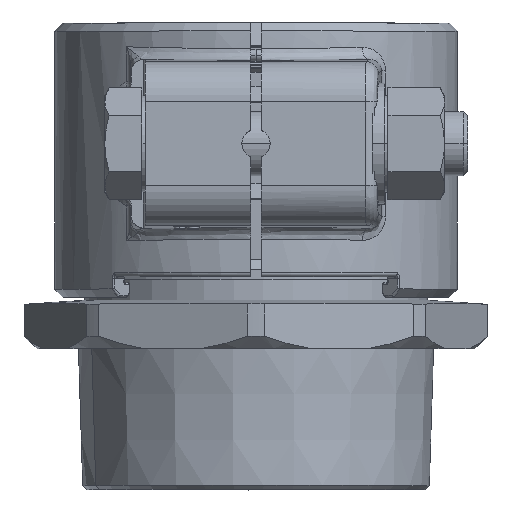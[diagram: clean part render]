
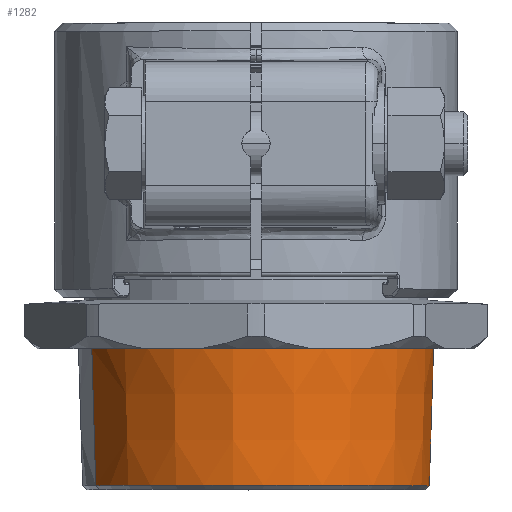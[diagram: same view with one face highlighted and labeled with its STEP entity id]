
A CAD part, top view. The second image highlights one B-rep face of the part: STEP entity #1282.
In plain terms, the highlighted conical face has half-angle 1.783 degrees and reference radius 43.012 mm.
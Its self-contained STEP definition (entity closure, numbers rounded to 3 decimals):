
#191 = VERTEX_POINT ( 'NONE', #14124 ) ;
#221 = VERTEX_POINT ( 'NONE', #14154 ) ;
#236 = VERTEX_POINT ( 'NONE', #14169 ) ;
#300 = VERTEX_POINT ( 'NONE', #14233 ) ;
#1145 = EDGE_CURVE ( 'NONE', #236, #191, #5489, .T. ) ;
#1282 = ADVANCED_FACE ( 'NONE', ( #14618 ), #5013, .T. ) ;
#4951 = AXIS2_PLACEMENT_3D ( 'NONE', #14809, #14810, #14811 ) ;
#4958 = CIRCLE ( 'NONE', #4951, 43.043 ) ;
#5012 = AXIS2_PLACEMENT_3D ( 'NONE', #14620, #14619, #14610 ) ;
#5013 = CONICAL_SURFACE ( 'NONE', #5012, 43.012, 0.031 ) ;
#5274 = EDGE_CURVE ( 'NONE', #221, #300, #4958, .T. ) ;
#5489 = CIRCLE ( 'NONE', #5491, 44.102 ) ;
#5491 = AXIS2_PLACEMENT_3D ( 'NONE', #14341, #14342, #14343 ) ;
#6089 = VECTOR ( 'NONE', #12211, 1000. ) ;
#6090 = VECTOR ( 'NONE', #12215, 1000. ) ;
#6392 = ORIENTED_EDGE ( 'NONE', *, *, #8417, .F. ) ;
#6393 = ORIENTED_EDGE ( 'NONE', *, *, #5274, .T. ) ;
#6394 = ORIENTED_EDGE ( 'NONE', *, *, #8416, .T. ) ;
#6395 = ORIENTED_EDGE ( 'NONE', *, *, #1145, .T. ) ;
#8416 = EDGE_CURVE ( 'NONE', #300, #236, #12207, .T. ) ;
#8417 = EDGE_CURVE ( 'NONE', #221, #191, #12212, .T. ) ;
#12203 = CARTESIAN_POINT ( 'NONE',  ( 39.738, -47.75, -16.46 ) ) ;
#12207 = LINE ( 'NONE', #12203, #6089 ) ;
#12211 = DIRECTION ( 'NONE',  ( 0.029, 1., -0.012 ) ) ;
#12212 = LINE ( 'NONE', #12214, #6090 ) ;
#12214 = CARTESIAN_POINT ( 'NONE',  ( -39.738, -47.75, 16.46 ) ) ;
#12215 = DIRECTION ( 'NONE',  ( -0.029, 1., 0.012 ) ) ;
#13787 = EDGE_LOOP ( 'NONE', ( #6392, #6393, #6394, #6395 ) ) ;
#14124 = CARTESIAN_POINT ( 'NONE',  ( -40.745, -12.75, 16.877 ) ) ;
#14154 = CARTESIAN_POINT ( 'NONE',  ( -39.767, -46.75, 16.472 ) ) ;
#14169 = CARTESIAN_POINT ( 'NONE',  ( 40.745, -12.75, -16.877 ) ) ;
#14233 = CARTESIAN_POINT ( 'NONE',  ( 39.767, -46.75, -16.472 ) ) ;
#14341 = CARTESIAN_POINT ( 'NONE',  ( 0., -12.75, 0. ) ) ;
#14342 = DIRECTION ( 'NONE',  ( 0., -1., 0. ) ) ;
#14343 = DIRECTION ( 'NONE',  ( -0.924, 0., 0.383 ) ) ;
#14610 = DIRECTION ( 'NONE',  ( 0.924, 0., -0.383 ) ) ;
#14618 = FACE_OUTER_BOUND ( 'NONE', #13787, .T. ) ;
#14619 = DIRECTION ( 'NONE',  ( 0., 1., 0. ) ) ;
#14620 = CARTESIAN_POINT ( 'NONE',  ( 0., -47.75, 0. ) ) ;
#14809 = CARTESIAN_POINT ( 'NONE',  ( 0., -46.75, 0. ) ) ;
#14810 = DIRECTION ( 'NONE',  ( 0., 1., 0. ) ) ;
#14811 = DIRECTION ( 'NONE',  ( -0.924, 0., 0.383 ) ) ;
